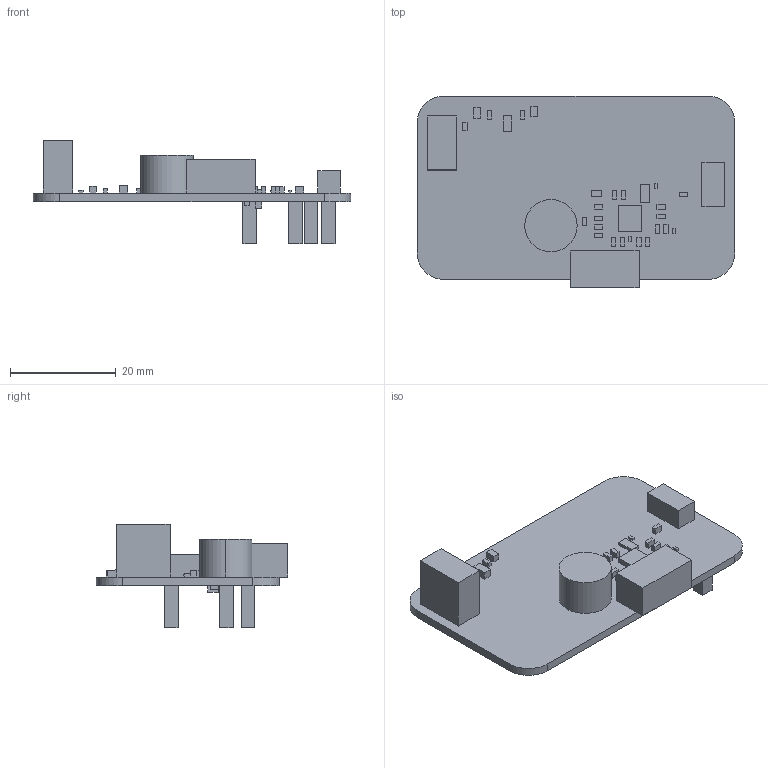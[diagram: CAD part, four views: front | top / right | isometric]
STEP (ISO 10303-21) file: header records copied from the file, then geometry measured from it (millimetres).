
FILE_DESCRIPTION (( 'STEP AP203' ), '1' );
FILE_NAME ('REF_receiver_electronics.step', '2026-10-15T10:09:09', ( '' ), ( '' ), 'SwSTEP 2.0', 'SolidWorks 2025', '' );
FILE_SCHEMA (( 'CONFIG_CONTROL_DESIGN' ));
Length unit declared in the file: millimetre
Products named in the file (1): REF_receiver_electronics
Bounding box: 60 x 36.22 x 19.6 mm (x, y, z)
Volume: 5462.5 mm3; surface area: 6606.1 mm2
Topology: 40 solids, 40 shells, 242 faces, 486 edges, 324 vertices
Faces by surface type: plane 236, cylinder 6
Entity records: 6161 total; most frequent: CARTESIAN_POINT 1053, DIRECTION 984, ORIENTED_EDGE 972, EDGE_CURVE 486, VECTOR 474, LINE 474, VERTEX_POINT 324, AXIS2_PLACEMENT_3D 255
